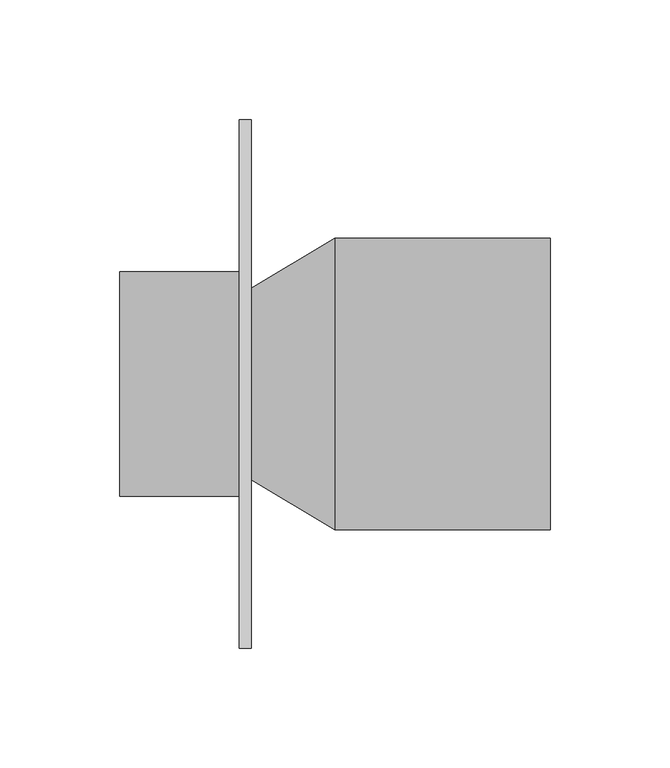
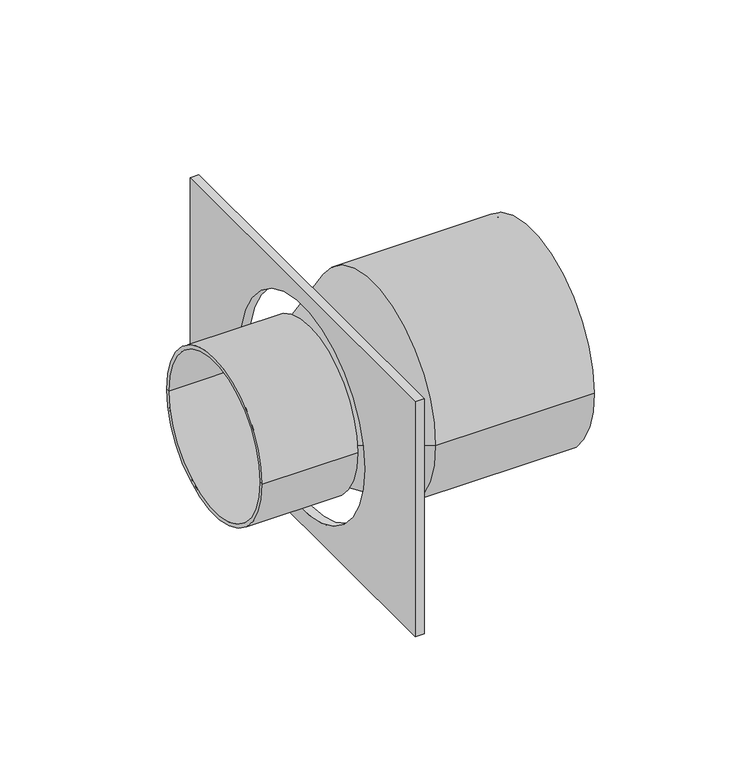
"""IFC4 building model written with IfcOpenShell, lengths in millimetres: duct fitting geometry, NLRS_57_DUF_UN_terminal connection straight_M&G : ø117 - ø125 / ø92."""

from ifc_helpers import new_model, si_unit, point, frame, origin, origin_2d, place, context, project, spatial, polyline, circle_curve, trimmed, segment, composite_curve, outline, extrude, source, transform, mapped, element, save
from ifc_brep_helpers import plane_surface, cylinder_surface, revolved_surface, advanced_brep


def duct_fitting_5a710104(model_context):
    return source(origin(), model_context, "Body", "SolidModel", [
        advanced_brep(
        [(54.0, -39.5, 0.0), (54.0, 39.5, 0.0), (90.0, 61.0, 0.0), (90.0, -61.0, 0.0), (180.0, -61.0, 0.0), (180.0, 61.0, 0.0), (180.0, 58.5, 0.0), (180.0, -58.5, 0.0), (54.0, -47.0, 0.0), (54.0, 47.0, 0.0), (0.0, -47.0, 0.0), (0.0, 47.0, 0.0), (0.0, -45.0, 0.0), (0.0, 45.0, 0.0), (52.5, -45.0, 0.0), (52.5, 45.0, 0.0), (52.5, -35.6922575, 0.0), (52.5, 35.6922575, 0.0), (90.6897083, -58.5, 0.0), (90.6897083, 58.5, 0.0)],
        [
            (0, 1, circle_curve(frame((54.0, 0.0, 0.0), z_axis=(1.0, 0.0, 0.0), x_axis=(0.0, 1.0, 0.0)), 39.5)),
            (1, 2),
            (2, 3, circle_curve(frame((90.0, 0.0, 0.0), z_axis=(-1.0, 0.0, 0.0), x_axis=(0.0, 1.0, 0.0)), 61.0)),
            (3, 0),
            (1, 0, circle_curve(frame((54.0, 0.0, 0.0), z_axis=(1.0, 0.0, 0.0), x_axis=(0.0, 1.0, 0.0)), 39.5)),
            (3, 2, circle_curve(frame((90.0, 0.0, 0.0), z_axis=(-1.0, 0.0, 0.0), x_axis=(0.0, 1.0, 0.0)), 61.0)),
            (4, 5, circle_curve(frame((180.0, 0.0, 0.0), z_axis=(1.0, 0.0, 0.0), x_axis=(0.0, 1.0, 0.0)), 61.0)),
            (5, 6),
            (6, 7, circle_curve(frame((180.0, 0.0, 0.0), z_axis=(-1.0, 0.0, 0.0), x_axis=(0.0, 1.0, 0.0)), 58.5)),
            (7, 4),
            (5, 4, circle_curve(frame((180.0, 0.0, 0.0), z_axis=(1.0, 0.0, 0.0), x_axis=(0.0, 1.0, 0.0)), 61.0)),
            (7, 6, circle_curve(frame((180.0, 0.0, 0.0), z_axis=(-1.0, 0.0, 0.0), x_axis=(0.0, 1.0, 0.0)), 58.5)),
            (2, 5),
            (4, 3),
            (8, 9, circle_curve(frame((54.0, 0.0, 0.0), z_axis=(1.0, 0.0, 0.0), x_axis=(0.0, 1.0, 0.0)), 47.0)),
            (9, 1),
            (0, 8),
            (9, 8, circle_curve(frame((54.0, 0.0, 0.0), z_axis=(1.0, 0.0, 0.0), x_axis=(0.0, 1.0, 0.0)), 47.0)),
            (10, 11, circle_curve(frame((0.0, 0.0, 0.0), z_axis=(1.0, 0.0, 0.0), x_axis=(0.0, 1.0, 0.0)), 47.0)),
            (11, 9),
            (8, 10),
            (11, 10, circle_curve(frame((0.0, 0.0, 0.0), z_axis=(1.0, 0.0, 0.0), x_axis=(0.0, 1.0, 0.0)), 47.0)),
            (12, 13, circle_curve(frame((0.0, 0.0, 0.0), z_axis=(1.0, 0.0, 0.0), x_axis=(0.0, 1.0, 0.0)), 45.0)),
            (13, 11),
            (10, 12),
            (13, 12, circle_curve(frame((0.0, 0.0, 0.0), z_axis=(1.0, 0.0, 0.0), x_axis=(0.0, 1.0, 0.0)), 45.0)),
            (14, 15, circle_curve(frame((52.5, 0.0, 0.0), z_axis=(1.0, 0.0, 0.0), x_axis=(0.0, 1.0, 0.0)), 45.0)),
            (15, 13),
            (12, 14),
            (15, 14, circle_curve(frame((52.5, 0.0, 0.0), z_axis=(1.0, 0.0, 0.0), x_axis=(0.0, 1.0, 0.0)), 45.0)),
            (16, 17, circle_curve(frame((52.5, 0.0, 0.0), z_axis=(1.0, 0.0, 0.0), x_axis=(0.0, 1.0, 0.0)), 35.6922575)),
            (17, 15),
            (14, 16),
            (17, 16, circle_curve(frame((52.5, 0.0, 0.0), z_axis=(1.0, 0.0, 0.0), x_axis=(0.0, 1.0, 0.0)), 35.6922575)),
            (18, 19, circle_curve(frame((90.6897083, 0.0, 0.0), z_axis=(1.0, 0.0, 0.0), x_axis=(0.0, 1.0, 0.0)), 58.5)),
            (19, 17),
            (16, 18),
            (19, 18, circle_curve(frame((90.6897083, 0.0, 0.0), z_axis=(1.0, 0.0, 0.0), x_axis=(0.0, 1.0, 0.0)), 58.5)),
            (6, 19),
            (18, 7),
        ],
        [
            revolved_surface(polyline([(90.0, 61.0, 0.0), (54.0, 39.5, 0.0)]), (0.0, 0.0, 0.0), (-1.0, 0.0, 0.0)),
            plane_surface(frame((180.0, 0.0, 0.0), z_axis=(1.0, 0.0, 0.0), x_axis=(0.0, 1.0, 0.0))),
            cylinder_surface(frame((0.0, 0.0, 0.0), z_axis=(-1.0, 0.0, 0.0), x_axis=(0.0, 1.0, 0.0)), 61.0),
            plane_surface(frame((54.0, 0.0, 0.0), z_axis=(1.0, 0.0, 0.0), x_axis=(0.0, 1.0, 0.0))),
            cylinder_surface(frame((0.0, 0.0, 0.0), z_axis=(-1.0, 0.0, 0.0), x_axis=(0.0, 1.0, 0.0)), 47.0),
            plane_surface(frame((0.0, 0.0, 0.0), z_axis=(-1.0, 0.0, 0.0), x_axis=(0.0, 1.0, 0.0))),
            revolved_surface(polyline([(0.0, 45.0, 0.0), (52.5, 45.0, 0.0)]), (0.0, 0.0, 0.0), (-1.0, 0.0, 0.0)),
            plane_surface(frame((52.5, 0.0, 0.0), z_axis=(-1.0, 0.0, 0.0), x_axis=(0.0, 1.0, 0.0))),
            revolved_surface(polyline([(52.5, 35.6922575, 0.0), (90.6897083, 58.5, 0.0)]), (0.0, 0.0, 0.0), (-1.0, 0.0, 0.0)),
            revolved_surface(polyline([(90.6897083, 58.5, 0.0), (180.0, 58.5, 0.0)]), (0.0, 0.0, 0.0), (-1.0, 0.0, 0.0)),
        ],
        [
            (0, [[1, 2, 3, 4]]),
            (0, [[5, -4, 6, -2]]),
            (1, [[7, 8, 9, 10]]),
            (1, [[11, -10, 12, -8]]),
            (2, [[-3, 13, -7, 14]]),
            (2, [[-6, -14, -11, -13]]),
            (3, [[15, 16, -1, 17]]),
            (3, [[18, -17, -5, -16]]),
            (4, [[19, 20, -15, 21]]),
            (4, [[22, -21, -18, -20]]),
            (5, [[23, 24, -19, 25]]),
            (5, [[26, -25, -22, -24]]),
            (6, [[27, 28, -23, 29]]),
            (6, [[30, -29, -26, -28]]),
            (7, [[31, 32, -27, 33]]),
            (7, [[34, -33, -30, -32]]),
            (8, [[35, 36, -31, 37]]),
            (8, [[38, -37, -34, -36]]),
            (9, [[-9, 39, -35, 40]]),
            (9, [[-12, -40, -38, -39]]),
        ],
    ),
        extrude(outline(polyline([(-110.5, 70.5), (110.5, 70.5), (110.5, -70.5), (-110.5, -70.5), (-110.5, 70.5)]), holes=[composite_curve([segment(trimmed(circle_curve(origin_2d(), 61.0), [point((-61.0, 0.0))], [point((61.0, 0.0))], True, "CARTESIAN"), True, "CONTINUOUS"), segment(trimmed(circle_curve(origin_2d(), 61.0), [point((61.0, 0.0))], [point((-61.0, 0.0))], True, "CARTESIAN"), True, "CONTINUOUS")], self_intersect=False)]), frame((50.0, 0.0, 0.0), z_axis=(1.0, 0.0, 0.0), x_axis=(0.0, 1.0, 0.0)), (0.0, 0.0, 1.0), 5.0),
    ])


if __name__ == "__main__":
    model = new_model("IFC4")
    model_context = context("Model", 3, world=origin())
    ifc_project = project(units=[si_unit("LENGTHUNIT", "METRE", prefix="MILLI")], contexts=[model_context])
    site = spatial("IfcSite", under=ifc_project)
    building = spatial("IfcBuilding", under=site)
    placement = place(None, origin())
    duct_fitting_shape = duct_fitting_5a710104(model_context)
    element("IfcDuctFitting", 1, ObjectType="NLRS_57_DUF_UN_terminal connection straight_M&G : ø117 - ø125 / ø92", at=placement, inside=building, context=model_context, shape_type="MappedRepresentation", body=[
        mapped(duct_fitting_shape, transform((0.0, 0.0, 0.0), x_axis=(1.0, 0.0, 0.0), y_axis=(0.0, 1.0, 0.0), z_axis=(0.0, 0.0, 1.0))),
    ])
    save(model, "model.ifc")
